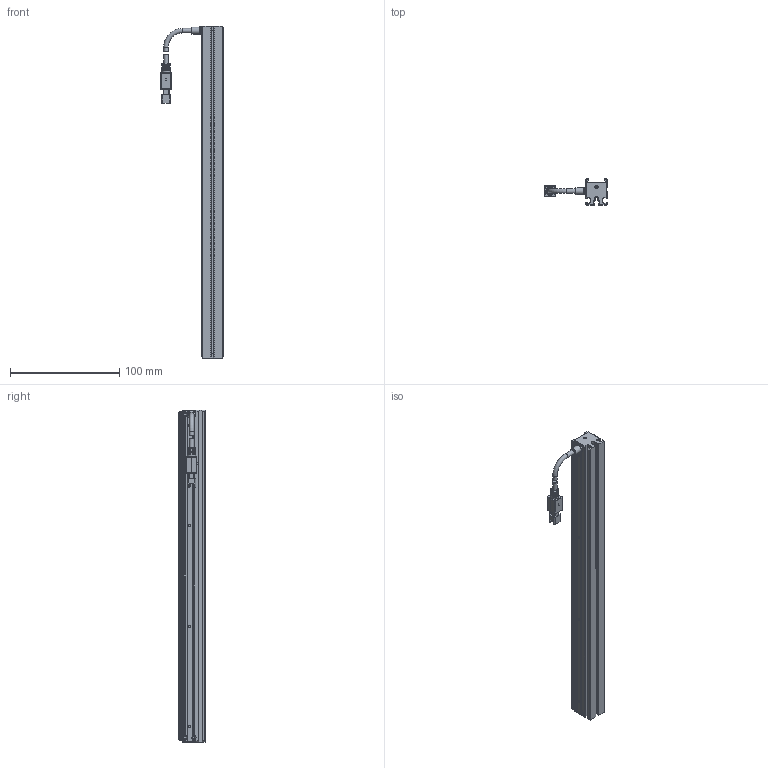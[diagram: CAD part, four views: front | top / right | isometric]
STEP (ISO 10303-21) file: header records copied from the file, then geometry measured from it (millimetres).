
FILE_DESCRIPTION (( 'STEP AP214' ), '1' );
FILE_NAME ('OPT-ULI30420W-UV-V1.0尨砩芞.STEP', '2024-12-11T03:34:26', ( '' ), ( '' ), 'SwSTEP 2.0', 'SolidWorks 2016', '' );
FILE_SCHEMA (( 'AUTOMOTIVE_DESIGN' ));
Length unit declared in the file: millimetre
Products named in the file (1): OPT-ULI30420W-UV-V1.0尨砩芞
Bounding box: 57.6 x 24 x 304 mm (x, y, z)
Volume: 108272.6 mm3; surface area: 51760.9 mm2
Topology: 6 solids, 14 shells, 587 faces, 1528 edges, 984 vertices
Faces by surface type: plane 392, cylinder 138, cone 28, bspline 21, torus 8
Full cylindrical faces by diameter (mm): 1.1 x2, 1.4 x2, 1.6 x7, 2 x15, 2.4 x7, 2.5 x2, 3 x2, 3.5 x1, 4.1 x4, 6.5 x1, 7 x1, 7.5 x1
Entity records: 24123 total; most frequent: CARTESIAN_POINT 4174, ORIENTED_EDGE 2822, DIRECTION 2736, EDGE_CURVE 1411, VECTOR 960, LINE 960, VERTEX_POINT 944, AXIS2_PLACEMENT_3D 888
